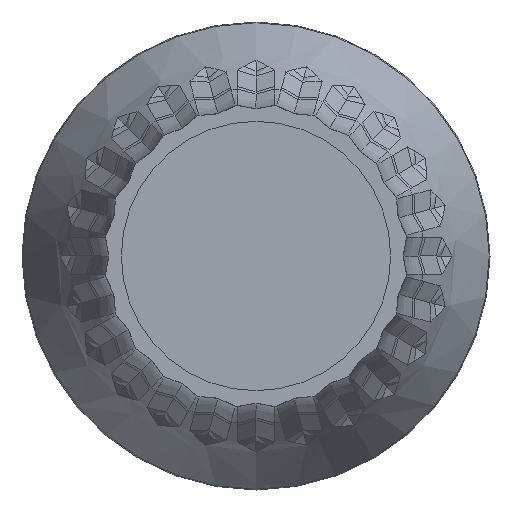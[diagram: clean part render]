
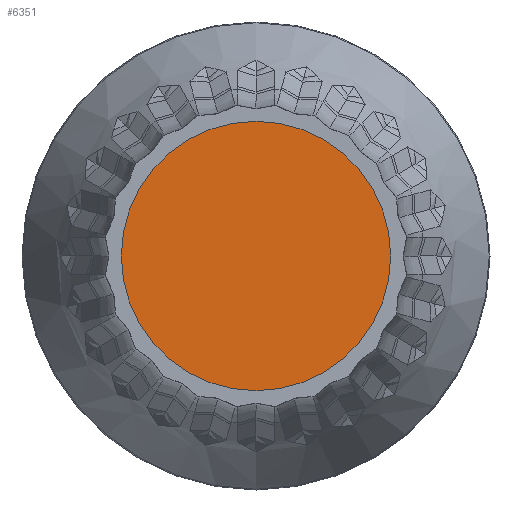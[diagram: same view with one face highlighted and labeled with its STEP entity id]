
A CAD part, front view. The second image highlights one B-rep face of the part: STEP entity #6351.
In plain terms, the highlighted planar face has unit normal (0, -1, 0).
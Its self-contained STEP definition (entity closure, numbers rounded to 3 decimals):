
#1253 = CARTESIAN_POINT ( 'NONE',  ( 0., 19.75, 0. ) ) ;
#1610 = EDGE_CURVE ( 'NONE', #17324, #17324, #24775, .T. ) ;
#6131 = EDGE_LOOP ( 'NONE', ( #15676 ) ) ;
#6351 = ADVANCED_FACE ( 'NONE', ( #11433 ), #34354, .T. ) ;
#11433 = FACE_OUTER_BOUND ( 'NONE', #6131, .T. ) ;
#15086 = AXIS2_PLACEMENT_3D ( 'NONE', #1253, #31698, #31269 ) ;
#15676 = ORIENTED_EDGE ( 'NONE', *, *, #1610, .T. ) ;
#17324 = VERTEX_POINT ( 'NONE', #30516 ) ;
#21387 = CARTESIAN_POINT ( 'NONE',  ( 0., 19.75, 0. ) ) ;
#24775 = CIRCLE ( 'NONE', #15086, 15.8 ) ;
#30516 = CARTESIAN_POINT ( 'NONE',  ( 0., 19.75, -15.8 ) ) ;
#30683 = DIRECTION ( 'NONE',  ( 0., 0., -1. ) ) ;
#31016 = AXIS2_PLACEMENT_3D ( 'NONE', #21387, #41292, #30683 ) ;
#31269 = DIRECTION ( 'NONE',  ( 0., 0., -1. ) ) ;
#31698 = DIRECTION ( 'NONE',  ( 0., -1., 0. ) ) ;
#34354 = PLANE ( 'NONE',  #31016 ) ;
#41292 = DIRECTION ( 'NONE',  ( 0., -1., 0. ) ) ;
